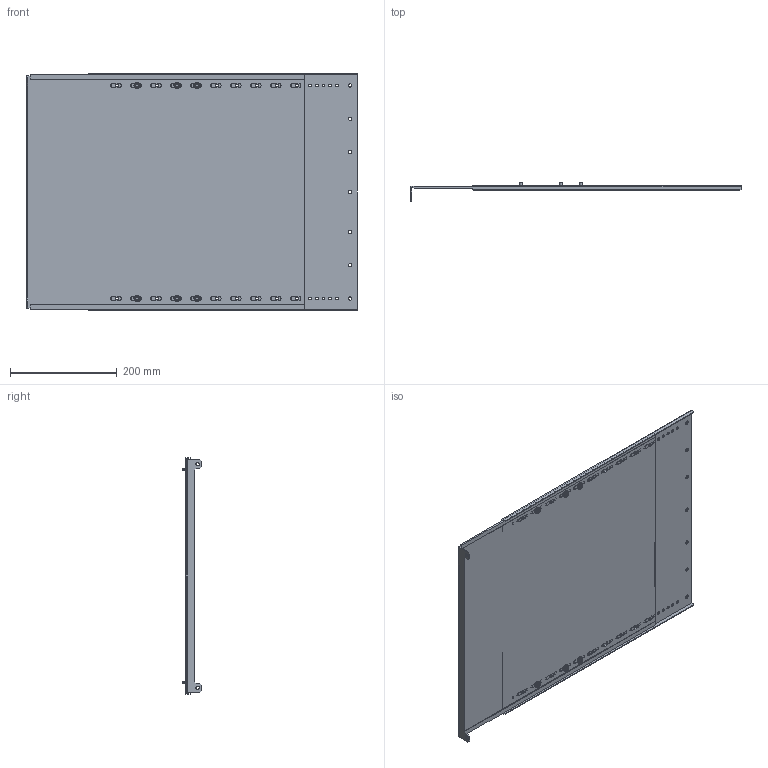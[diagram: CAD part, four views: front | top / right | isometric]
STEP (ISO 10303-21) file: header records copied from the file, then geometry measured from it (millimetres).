
FILE_DESCRIPTION (( 'STEP AP214' ), '1' );
FILE_NAME ('FO-00-SWVB-045-060 Ïåðåãîðîäêà ñåêöèîíèðîâàíèÿ âåðòèêàëüíàÿ äëÿ âåðòèêàëüíîãî øèííîãî îòñåêà 450õ600 ìì â øêàô ãëóáèíîé 1000 ìì.STEP', '2025-08-08T09:42:43', ( '' ), ( '' ), 'SwSTEP 2.0', 'SolidWorks 2023', '' );
FILE_SCHEMA (( 'AUTOMOTIVE_DESIGN' ));
Length unit declared in the file: millimetre
Products named in the file (4): FO-00-SWVB-045-060 Перегородка секционирования вертикальная для вертикального шинного отсека 450х600 мм в шкаф глубиной 1000 мм; Перегородка секционирования 450х600; Болты М5 х450; Перегородка секционирования ап 450х600
Assembly tree (5 placements, depth 2):
  FO-00-SWVB-045-060 Перегородка секционирования вертикальная для вертикального шинного отсека 450х600 мм в шкаф глубиной 1000 мм
    Перегородка секционирования 450х600
    Перегородка секционирования ап 450х600
    Болты М5 х450  x3
Bounding box: 619.75 x 35.7 x 444.5 mm (x, y, z)
Volume: 710338.1 mm3; surface area: 939401.6 mm2
Topology: 8 solids, 8 shells, 468 faces, 1284 edges, 844 vertices
Faces by surface type: cylinder 316, plane 116, torus 24, cone 12
Entity records: 12286 total; most frequent: DIRECTION 2228, CARTESIAN_POINT 2036, ORIENTED_EDGE 2016, EDGE_CURVE 1008, AXIS2_PLACEMENT_3D 860, VERTEX_POINT 668, EDGE_LOOP 558, LINE 508
